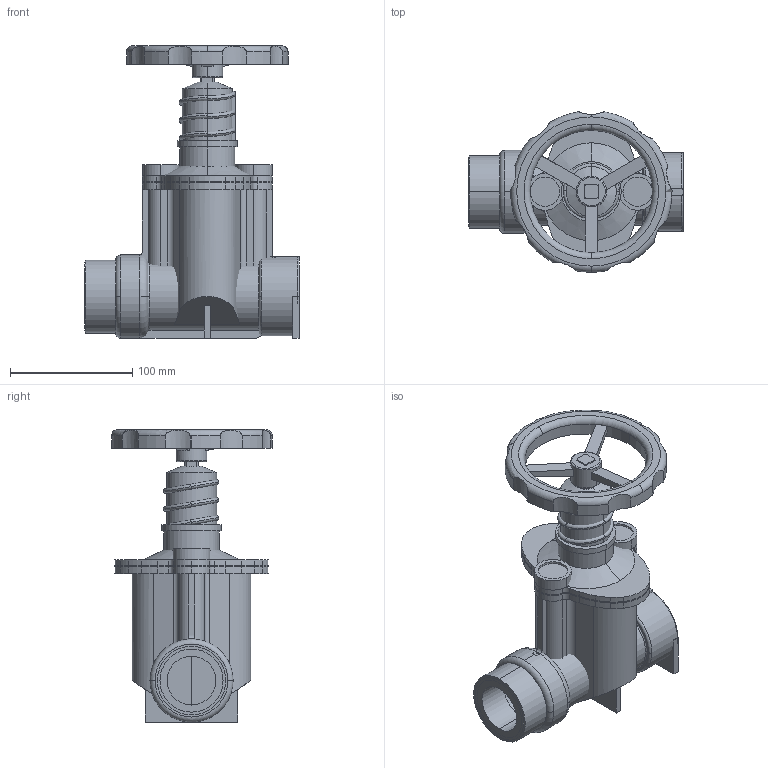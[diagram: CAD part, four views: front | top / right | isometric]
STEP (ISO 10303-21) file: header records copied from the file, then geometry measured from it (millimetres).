
FILE_DESCRIPTION(('STEP AP214'),'1');
FILE_NAME('S:/EK/USER/CAT6/3DHomepage/2520/2520-PN16-DN40-HANDRAD.STP','2012-04-25T10:09:27',(' '),(' '),'Spatial InterOp 3D',' ',' ');
FILE_SCHEMA(('automotive_design'));
Length unit declared in the file: millimetre
Products named in the file (40): 3D-Objekt
Bounding box: 175 x 131.2 x 239 mm (x, y, z)
Volume: 1252602.5 mm3; surface area: 280798.1 mm2
Topology: 40 solids, 40 shells, 377 faces, 893 edges, 605 vertices
Faces by surface type: cylinder 171, plane 160, torus 42, cone 4
Entity records: 15374 total; most frequent: DIRECTION 2220, CARTESIAN_POINT 2189, ORIENTED_EDGE 1786, AXIS2_PLACEMENT_3D 920, EDGE_CURVE 893, VERTEX_POINT 605, CIRCLE 493, STYLED_ITEM 417
